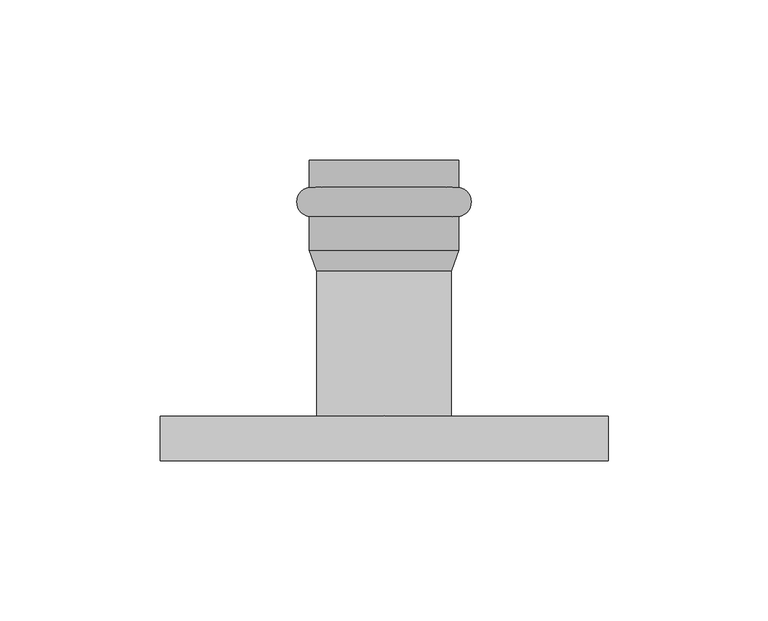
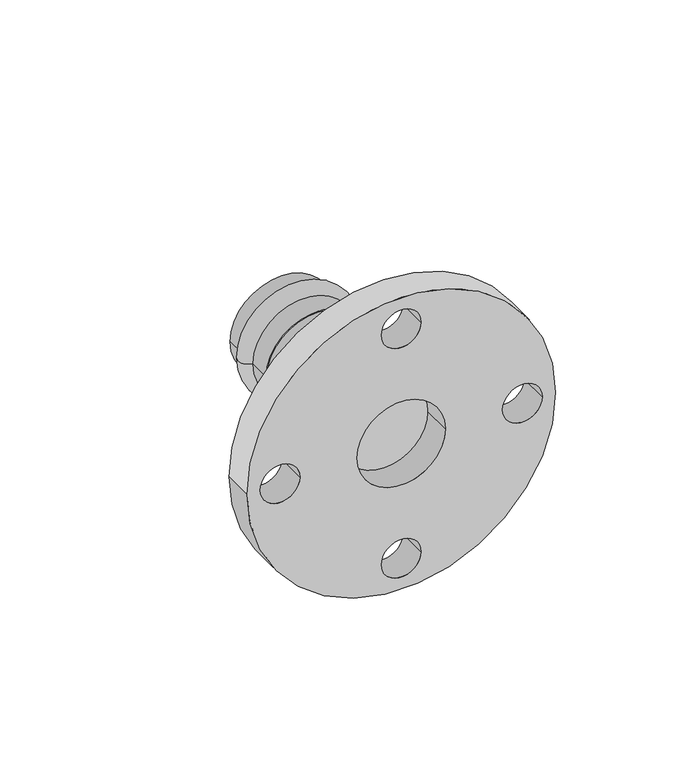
"""IFC4 building model written with IfcOpenShell, lengths in millimetres: pipe fitting geometry, VALTEC_VTi.980.I_Соединитель с переходом на фланец нержавеющая сталь : VTi.980.I."""

from ifc_helpers import new_model, si_unit, point, frame, frame_2d, origin, origin_2d, place, context, project, spatial, polyline, circle_curve, ellipse_curve, trimmed, segment, composite_curve, outline, extrude, source, transform, mapped, element, save
from ifc_brep_helpers import plane_surface, cylinder_surface, revolved_surface, advanced_brep


def pipe_fitting_cfc999be(model_context):
    return source(origin(), model_context, "Body", "SolidModel", [
        advanced_brep(
        [(-23.35, 85.4464272, 0.0), (23.35, 85.4464272, 0.0), (23.35, 76.3535728, 0.0), (-23.35, 76.3535728, 0.0), (-23.35, 94.0, 0.0), (23.35, 94.0, 0.0), (-21.0, 94.0, 0.0), (21.0, 94.0, 0.0), (-21.0, 65.8, 0.0), (21.0, 65.8, 0.0), (-23.35, 65.8, 0.0), (23.35, 65.8, 0.0)],
        [
            (0, 1, circle_curve(frame((0.0, 85.4464272, 0.0), z_axis=(0.0, -1.0, 0.0), x_axis=(1.0, 0.0, 0.0)), 23.35)),
            (1, 2, circle_curve(frame((22.65, 80.9, 0.0), z_axis=(0.0, 0.0, -1.0), x_axis=(0.0, -1.0, 0.0)), 4.6)),
            (2, 3, circle_curve(frame((0.0, 76.3535728, 0.0), z_axis=(0.0, 1.0, 0.0), x_axis=(1.0, 0.0, 0.0)), 23.35)),
            (3, 0, circle_curve(frame((-22.65, 80.9, 0.0), z_axis=(0.0, 0.0, -1.0), x_axis=(0.0, -1.0, 0.0)), 4.6)),
            (1, 0, circle_curve(frame((0.0, 85.4464272, 0.0), z_axis=(0.0, -1.0, 0.0), x_axis=(1.0, 0.0, 0.0)), 23.35)),
            (3, 2, circle_curve(frame((0.0, 76.3535728, 0.0), z_axis=(0.0, 1.0, 0.0), x_axis=(1.0, 0.0, 0.0)), 23.35)),
            (4, 5, circle_curve(frame((0.0, 94.0, 0.0), z_axis=(0.0, -1.0, 0.0), x_axis=(1.0, 0.0, 0.0)), 23.35)),
            (5, 1),
            (0, 4),
            (5, 4, circle_curve(frame((0.0, 94.0, 0.0), z_axis=(0.0, -1.0, 0.0), x_axis=(1.0, 0.0, 0.0)), 23.35)),
            (6, 7, circle_curve(frame((0.0, 94.0, 0.0), z_axis=(0.0, -1.0, 0.0), x_axis=(1.0, 0.0, 0.0)), 21.0)),
            (7, 5),
            (4, 6),
            (7, 6, circle_curve(frame((0.0, 94.0, 0.0), z_axis=(0.0, -1.0, 0.0), x_axis=(1.0, 0.0, 0.0)), 21.0)),
            (8, 9, circle_curve(frame((0.0, 65.8, 0.0), z_axis=(0.0, -1.0, 0.0), x_axis=(1.0, 0.0, 0.0)), 21.0)),
            (9, 7),
            (6, 8),
            (9, 8, circle_curve(frame((0.0, 65.8, 0.0), z_axis=(0.0, -1.0, 0.0), x_axis=(1.0, 0.0, 0.0)), 21.0)),
            (10, 11, circle_curve(frame((0.0, 65.8, 0.0), z_axis=(0.0, -1.0, 0.0), x_axis=(1.0, 0.0, 0.0)), 23.35)),
            (11, 9),
            (8, 10),
            (11, 10, circle_curve(frame((0.0, 65.8, 0.0), z_axis=(0.0, -1.0, 0.0), x_axis=(1.0, 0.0, 0.0)), 23.35)),
            (2, 11),
            (10, 3),
        ],
        [
            revolved_surface(trimmed(ellipse_curve(frame((22.65, 80.9, 0.0), z_axis=(0.0, 0.0, 1.0), x_axis=(0.0, -1.0, 0.0)), 4.6, 4.6), [point((23.35, 76.3535728, 0.0))], [point((23.35, 85.4464272, 0.0))], True, "CARTESIAN"), (0.0, 97.5364426, 0.0), (0.0, 1.0, 0.0)),
            cylinder_surface(frame((0.0, 97.5364426, 0.0), z_axis=(0.0, 1.0, 0.0), x_axis=(1.0, 0.0, 0.0)), 23.35),
            plane_surface(frame((0.0, 94.0, 0.0), z_axis=(0.0, 1.0, 0.0), x_axis=(1.0, 0.0, 0.0))),
            revolved_surface(polyline([(21.0, 94.0, 0.0), (21.0, 65.8, 0.0)]), (0.0, 97.5364426, 0.0), (0.0, 1.0, 0.0)),
            plane_surface(frame((0.0, 65.8, 0.0), z_axis=(0.0, -1.0, 0.0), x_axis=(1.0, 0.0, 0.0))),
        ],
        [
            (0, [[1, 2, 3, 4]]),
            (0, [[5, -4, 6, -2]]),
            (1, [[7, 8, -1, 9]]),
            (1, [[10, -9, -5, -8]]),
            (2, [[11, 12, -7, 13]]),
            (2, [[14, -13, -10, -12]]),
            (3, [[15, 16, -11, 17]]),
            (3, [[18, -17, -14, -16]]),
            (4, [[19, 20, -15, 21]]),
            (4, [[22, -21, -18, -20]]),
            (1, [[-3, 23, -19, 24]]),
            (1, [[-6, -24, -22, -23]]),
        ],
    ),
        extrude(outline(composite_curve([segment(trimmed(circle_curve(origin_2d(), 21.0), [point((0.0, -21.0))], [point((0.0, 21.0))], False, "CARTESIAN"), True, "CONTINUOUS"), segment(trimmed(circle_curve(origin_2d(), 21.0), [point((0.0, 21.0))], [point((0.0, -21.0))], False, "CARTESIAN"), True, "CONTINUOUS")], self_intersect=False)), frame((0.0, 14.0, 0.0), z_axis=(0.0, 1.0, 0.0), x_axis=(0.0, 0.0, 1.0)), (0.0, 0.0, 1.0), 45.22),
        advanced_brep(
        [(-23.35, 65.8, 0.0), (23.35, 65.8, 0.0), (-21.0, 59.22, 0.0), (21.0, 59.22, 0.0)],
        [
            (0, 1, circle_curve(frame((0.0, 65.8, 0.0), z_axis=(0.0, 1.0, 0.0), x_axis=(-1.0, 0.0, 0.0)), 23.35)),
            (1, 0, circle_curve(frame((0.0, 65.8, 0.0), z_axis=(0.0, 1.0, 0.0), x_axis=(1.0, 0.0, 0.0)), 23.35)),
            (2, 3, circle_curve(frame((0.0, 59.22, 0.0), z_axis=(0.0, -1.0, 0.0), x_axis=(1.0, 0.0, 0.0)), 21.0)),
            (3, 2, circle_curve(frame((0.0, 59.22, 0.0), z_axis=(0.0, -1.0, 0.0), x_axis=(-1.0, 0.0, 0.0)), 21.0)),
            (2, 0),
            (1, 3),
        ],
        [
            plane_surface(frame((0.0, 65.8, 0.0), z_axis=(0.0, 1.0, 0.0), x_axis=(0.0, 0.0, -1.0))),
            plane_surface(frame((0.0, 59.22, 0.0), z_axis=(0.0, -1.0, 0.0), x_axis=(0.0, 0.0, -1.0))),
            revolved_surface(polyline([(-21.0, 59.22, 0.0), (-23.35, 65.8, 0.0)]), (0.0, 0.42, 0.0), (0.0, 1.0, 0.0)),
            revolved_surface(polyline([(21.0, 59.22, 0.0), (23.35, 65.8, 0.0)]), (0.0, 0.42, 0.0), (0.0, 1.0, 0.0)),
        ],
        [
            (0, [[1, 2]]),
            (1, [[3, 4]]),
            (2, [[-3, 5, -2, 6]]),
            (3, [[-4, -6, -1, -5]]),
        ],
    ),
        extrude(outline(composite_curve([segment(trimmed(circle_curve(origin_2d(), 70.0), [point((0.0, -70.0))], [point((0.0, 70.0))], False, "CARTESIAN"), True, "CONTINUOUS"), segment(trimmed(circle_curve(origin_2d(), 70.0), [point((0.0, 70.0))], [point((0.0, -70.0))], False, "CARTESIAN"), True, "CONTINUOUS")], self_intersect=False), holes=[composite_curve([segment(trimmed(circle_curve(frame_2d((0.0, -55.0)), 9.0), [point((0.0, -64.0))], [point((0.0, -46.0))], True, "CARTESIAN"), True, "CONTINUOUS"), segment(trimmed(circle_curve(frame_2d((0.0, -55.0)), 9.0), [point((0.0, -46.0))], [point((0.0, -64.0))], True, "CARTESIAN"), True, "CONTINUOUS")], self_intersect=False), composite_curve([segment(trimmed(circle_curve(frame_2d((-55.0, 0.0)), 9.0), [point((-55.0, -9.0))], [point((-55.0, 9.0))], True, "CARTESIAN"), True, "CONTINUOUS"), segment(trimmed(circle_curve(frame_2d((-55.0, 0.0)), 9.0), [point((-55.0, 9.0))], [point((-55.0, -9.0))], True, "CARTESIAN"), True, "CONTINUOUS")], self_intersect=False), composite_curve([segment(trimmed(circle_curve(frame_2d((0.0, 55.0)), 9.0), [point((0.0, 46.0))], [point((0.0, 64.0))], True, "CARTESIAN"), True, "CONTINUOUS"), segment(trimmed(circle_curve(frame_2d((0.0, 55.0)), 9.0), [point((0.0, 64.0))], [point((0.0, 46.0))], True, "CARTESIAN"), True, "CONTINUOUS")], self_intersect=False), composite_curve([segment(trimmed(circle_curve(frame_2d((55.0, 0.0)), 9.0), [point((55.0, -9.0))], [point((55.0, 9.0))], True, "CARTESIAN"), True, "CONTINUOUS"), segment(trimmed(circle_curve(frame_2d((55.0, 0.0)), 9.0), [point((55.0, 9.0))], [point((55.0, -9.0))], True, "CARTESIAN"), True, "CONTINUOUS")], self_intersect=False), composite_curve([segment(trimmed(circle_curve(origin_2d(), 20.0), [point((0.0, -20.0))], [point((0.0, 20.0))], True, "CARTESIAN"), True, "CONTINUOUS"), segment(trimmed(circle_curve(origin_2d(), 20.0), [point((0.0, 20.0))], [point((0.0, -20.0))], True, "CARTESIAN"), True, "CONTINUOUS")], self_intersect=False)]), frame((0.0, 0.0, 0.0), z_axis=(0.0, 1.0, 0.0), x_axis=(0.0, 0.0, 1.0)), (0.0, 0.0, 1.0), 14.0),
    ])


if __name__ == "__main__":
    model = new_model("IFC4")
    model_context = context("Model", 3, world=origin())
    ifc_project = project(units=[si_unit("LENGTHUNIT", "METRE", prefix="MILLI")], contexts=[model_context])
    site = spatial("IfcSite", under=ifc_project)
    building = spatial("IfcBuilding", under=site)
    placement = place(None, origin())
    pipe_fitting_shape = pipe_fitting_cfc999be(model_context)
    element("IfcPipeFitting", 1, ObjectType="VALTEC_VTi.980.I_Соединитель с переходом на фланец нержавеющая сталь : VTi.980.I", at=placement, inside=building, context=model_context, shape_type="MappedRepresentation", body=[
        mapped(pipe_fitting_shape, transform((0.0, 0.0, 0.0), x_axis=(1.0, 0.0, 0.0), y_axis=(0.0, 1.0, 0.0), z_axis=(0.0, 0.0, 1.0))),
    ])
    save(model, "model.ifc")
